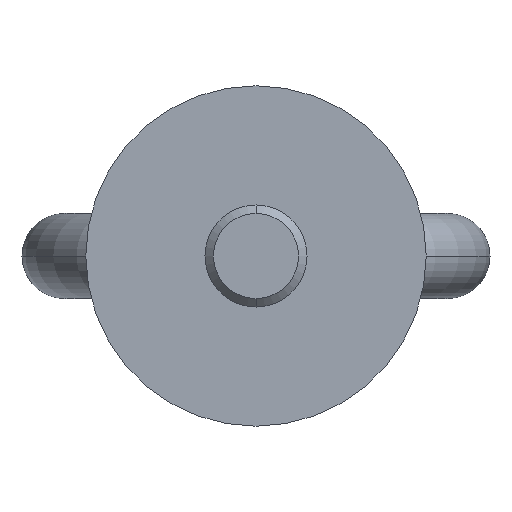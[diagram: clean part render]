
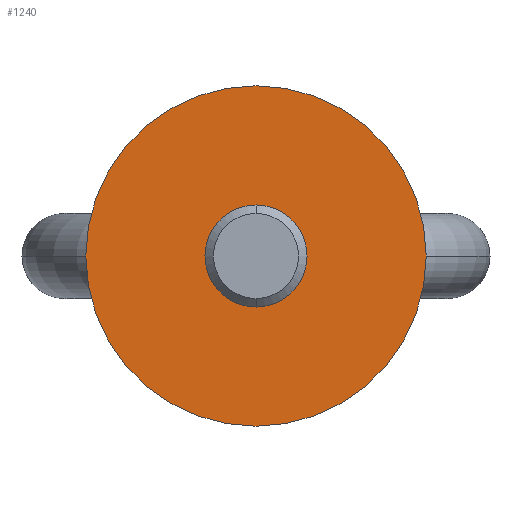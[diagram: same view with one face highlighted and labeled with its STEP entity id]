
A CAD part, front view. The second image highlights one B-rep face of the part: STEP entity #1240.
In plain terms, the highlighted planar face has unit normal (0, -1, 0).
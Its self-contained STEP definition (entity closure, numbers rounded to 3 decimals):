
#9 = DIRECTION ( 'NONE',  ( 0., 0., 1. ) ) ;
#125 = DIRECTION ( 'NONE',  ( 0., 0., 1. ) ) ;
#289 = CARTESIAN_POINT ( 'NONE',  ( 0., 0., 0. ) ) ;
#427 = DIRECTION ( 'NONE',  ( 0., 0., 1. ) ) ;
#475 = VERTEX_POINT ( 'NONE', #1776 ) ;
#556 = ORIENTED_EDGE ( 'NONE', *, *, #1365, .F. ) ;
#678 = EDGE_LOOP ( 'NONE', ( #1014, #556 ) ) ;
#689 = AXIS2_PLACEMENT_3D ( 'NONE', #1671, #819, #9 ) ;
#761 = CIRCLE ( 'NONE', #689, 20. ) ;
#819 = DIRECTION ( 'NONE',  ( 0., 1., 0. ) ) ;
#938 = PLANE ( 'NONE',  #1051 ) ;
#945 = DIRECTION ( 'NONE',  ( 0., 1., 0. ) ) ;
#1014 = ORIENTED_EDGE ( 'NONE', *, *, #1643, .F. ) ;
#1051 = AXIS2_PLACEMENT_3D ( 'NONE', #1800, #945, #125 ) ;
#1149 = VERTEX_POINT ( 'NONE', #1784 ) ;
#1240 = ADVANCED_FACE ( 'NONE', ( #1586 ), #938, .F. ) ;
#1259 = DIRECTION ( 'NONE',  ( 0., 1., 0. ) ) ;
#1365 = EDGE_CURVE ( 'NONE', #1149, #475, #1375, .T. ) ;
#1375 = CIRCLE ( 'NONE', #1762, 20. ) ;
#1586 = FACE_OUTER_BOUND ( 'NONE', #678, .T. ) ;
#1643 = EDGE_CURVE ( 'NONE', #475, #1149, #761, .T. ) ;
#1671 = CARTESIAN_POINT ( 'NONE',  ( 0., 0., 0. ) ) ;
#1762 = AXIS2_PLACEMENT_3D ( 'NONE', #289, #1259, #427 ) ;
#1776 = CARTESIAN_POINT ( 'NONE',  ( 0., 0., 20. ) ) ;
#1784 = CARTESIAN_POINT ( 'NONE',  ( 0., 0., -20. ) ) ;
#1800 = CARTESIAN_POINT ( 'NONE',  ( 0., 0., 0. ) ) ;
